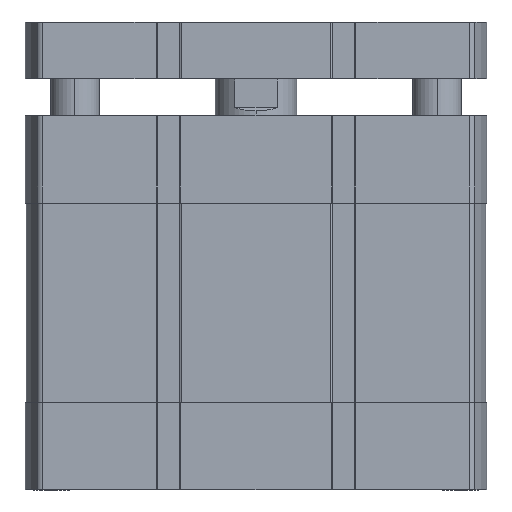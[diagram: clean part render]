
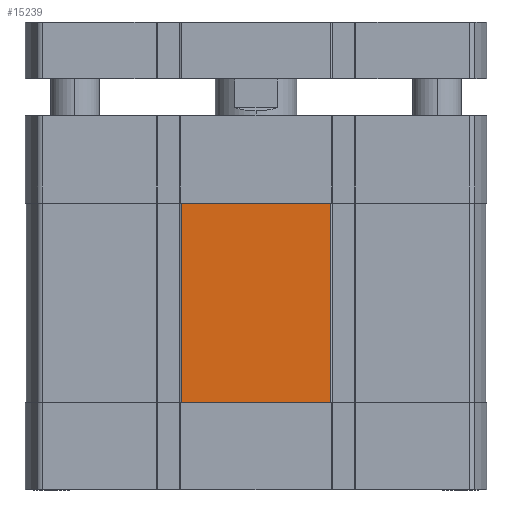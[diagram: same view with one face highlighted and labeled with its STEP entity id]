
A CAD part, front view. The second image highlights one B-rep face of the part: STEP entity #15239.
In plain terms, the highlighted planar face has unit normal (0, -1, 0) as drawn and (-1, 0, 0) by its records, which use the part's own axes.
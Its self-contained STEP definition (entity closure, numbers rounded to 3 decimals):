
#337 = EDGE_CURVE ( 'NONE', #2991, #16369, #4118, .T. ) ;
#722 = CARTESIAN_POINT ( 'NONE',  ( -56.5, -18.345, -21.5 ) ) ;
#983 = CARTESIAN_POINT ( 'NONE',  ( -56.5, 18.345, -70.5 ) ) ;
#1278 = PLANE ( 'NONE',  #6535 ) ;
#2085 = VECTOR ( 'NONE', #5785, 1000. ) ;
#2378 = VERTEX_POINT ( 'NONE', #3605 ) ;
#2690 = LINE ( 'NONE', #25422, #2085 ) ;
#2730 = EDGE_CURVE ( 'NONE', #2378, #12612, #23890, .T. ) ;
#2759 = CARTESIAN_POINT ( 'NONE',  ( -56.5, -18.545, -21.5 ) ) ;
#2991 = VERTEX_POINT ( 'NONE', #11373 ) ;
#3246 = CARTESIAN_POINT ( 'NONE',  ( -56.5, 18.345, -70.5 ) ) ;
#3605 = CARTESIAN_POINT ( 'NONE',  ( -56.5, 18.345, -21.5 ) ) ;
#4118 = LINE ( 'NONE', #9149, #23799 ) ;
#5235 = DIRECTION ( 'NONE',  ( 0., 0., 1. ) ) ;
#5785 = DIRECTION ( 'NONE',  ( 0., -1., 0. ) ) ;
#6535 = AXIS2_PLACEMENT_3D ( 'NONE', #3246, #17088, #5235 ) ;
#8758 = ORIENTED_EDGE ( 'NONE', *, *, #25029, .T. ) ;
#9149 = CARTESIAN_POINT ( 'NONE',  ( -56.5, -18.345, -70.5 ) ) ;
#9255 = DIRECTION ( 'NONE',  ( 0., 0., 1. ) ) ;
#11019 = ORIENTED_EDGE ( 'NONE', *, *, #337, .T. ) ;
#11373 = CARTESIAN_POINT ( 'NONE',  ( -56.5, -18.345, -70.5 ) ) ;
#12612 = VERTEX_POINT ( 'NONE', #22244 ) ;
#14840 = DIRECTION ( 'NONE',  ( 0., 0., -1. ) ) ;
#15239 = ADVANCED_FACE ( 'NONE', ( #25486 ), #1278, .T. ) ;
#16199 = ORIENTED_EDGE ( 'NONE', *, *, #24766, .T. ) ;
#16369 = VERTEX_POINT ( 'NONE', #722 ) ;
#16594 = DIRECTION ( 'NONE',  ( 0., 1., 0. ) ) ;
#17088 = DIRECTION ( 'NONE',  ( -1., 0., 0. ) ) ;
#17534 = VECTOR ( 'NONE', #16594, 1000. ) ;
#21153 = ORIENTED_EDGE ( 'NONE', *, *, #2730, .T. ) ;
#22244 = CARTESIAN_POINT ( 'NONE',  ( -56.5, 18.345, -70.5 ) ) ;
#22661 = LINE ( 'NONE', #2759, #17534 ) ;
#23196 = EDGE_LOOP ( 'NONE', ( #16199, #11019, #8758, #21153 ) ) ;
#23799 = VECTOR ( 'NONE', #9255, 1000. ) ;
#23890 = LINE ( 'NONE', #983, #24507 ) ;
#24507 = VECTOR ( 'NONE', #14840, 1000. ) ;
#24766 = EDGE_CURVE ( 'NONE', #12612, #2991, #2690, .T. ) ;
#25029 = EDGE_CURVE ( 'NONE', #16369, #2378, #22661, .T. ) ;
#25422 = CARTESIAN_POINT ( 'NONE',  ( -56.5, 18.345, -70.5 ) ) ;
#25486 = FACE_OUTER_BOUND ( 'NONE', #23196, .T. ) ;
